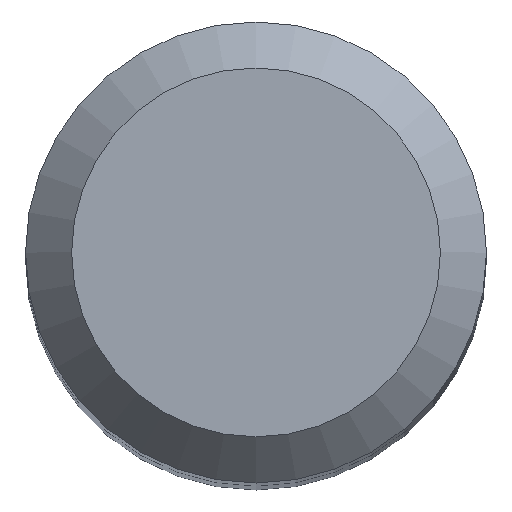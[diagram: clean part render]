
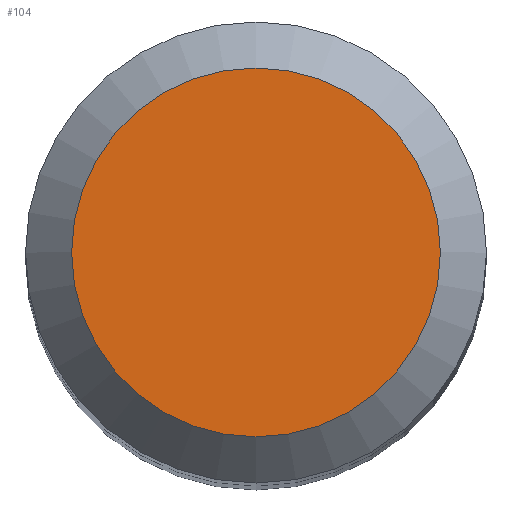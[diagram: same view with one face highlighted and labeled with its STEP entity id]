
A CAD part, top view. The second image highlights one B-rep face of the part: STEP entity #104.
In plain terms, the highlighted planar face has unit normal (0, 0, 1).
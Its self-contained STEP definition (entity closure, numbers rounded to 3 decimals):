
#88=CARTESIAN_POINT('',(4.8,0.0,105.0));
#89=DIRECTION('',(0.0,0.0,1.0));
#90=DIRECTION('',(1.0,0.0,0.0));
#91=AXIS2_PLACEMENT_3D('',#88,#89,#90);
#92=PLANE('',#91);
#93=CARTESIAN_POINT('',(-4.8,0.0,105.0));
#94=VERTEX_POINT('',#93);
#95=CARTESIAN_POINT('',(0.0,0.0,105.0));
#96=DIRECTION('',(0.0,0.0,-1.0));
#97=DIRECTION('',(-1.0,0.0,0.0));
#98=AXIS2_PLACEMENT_3D('',#95,#96,#97);
#99=CIRCLE('',#98,4.8);
#100=EDGE_CURVE('',#94,#94,#99,.T.);
#101=ORIENTED_EDGE('',*,*,#100,.F.);
#102=EDGE_LOOP('',(#101));
#103=FACE_OUTER_BOUND('',#102,.T.);
#104=ADVANCED_FACE('',(#103),#92,.T.);
